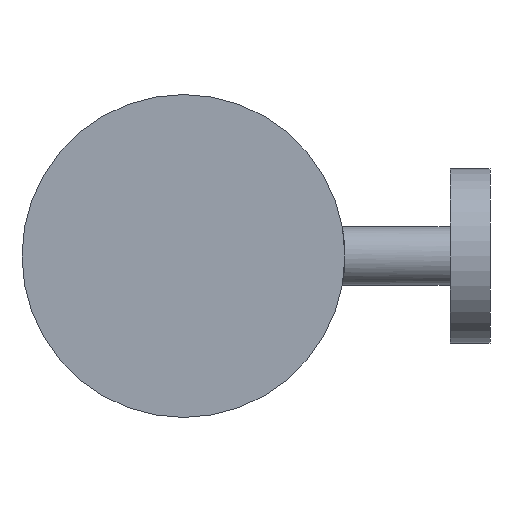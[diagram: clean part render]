
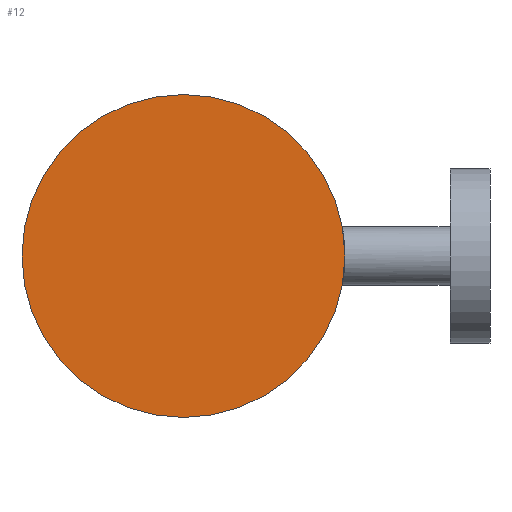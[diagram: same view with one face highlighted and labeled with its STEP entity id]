
A CAD part, front view. The second image highlights one B-rep face of the part: STEP entity #12.
In plain terms, the highlighted planar face has unit normal (0, -1, 0).
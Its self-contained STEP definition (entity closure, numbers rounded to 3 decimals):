
#12 = ADVANCED_FACE ( 'NONE', ( #183 ), #754, .T. ) ;
#19 = DIRECTION ( 'NONE',  ( 0., 0., -1. ) ) ;
#28 = DIRECTION ( 'NONE',  ( 0., 0., -1. ) ) ;
#89 = ORIENTED_EDGE ( 'NONE', *, *, #825, .T. ) ;
#121 = DIRECTION ( 'NONE',  ( 0., 0., -1. ) ) ;
#126 = CARTESIAN_POINT ( 'NONE',  ( 0., -3., -44.5 ) ) ;
#137 = VERTEX_POINT ( 'NONE', #427 ) ;
#183 = FACE_OUTER_BOUND ( 'NONE', #378, .T. ) ;
#225 = AXIS2_PLACEMENT_3D ( 'NONE', #470, #741, #121 ) ;
#269 = CIRCLE ( 'NONE', #783, 44.5 ) ;
#374 = CARTESIAN_POINT ( 'NONE',  ( 0., -3., 0. ) ) ;
#378 = EDGE_LOOP ( 'NONE', ( #89, #735 ) ) ;
#427 = CARTESIAN_POINT ( 'NONE',  ( 0., -3., 44.5 ) ) ;
#470 = CARTESIAN_POINT ( 'NONE',  ( 0., -3., 0. ) ) ;
#511 = CARTESIAN_POINT ( 'NONE',  ( 0., -3., 0. ) ) ;
#539 = CIRCLE ( 'NONE', #682, 44.5 ) ;
#634 = EDGE_CURVE ( 'NONE', #910, #137, #539, .T. ) ;
#665 = DIRECTION ( 'NONE',  ( 0., -1., 0. ) ) ;
#682 = AXIS2_PLACEMENT_3D ( 'NONE', #511, #706, #19 ) ;
#706 = DIRECTION ( 'NONE',  ( 0., -1., 0. ) ) ;
#735 = ORIENTED_EDGE ( 'NONE', *, *, #634, .T. ) ;
#741 = DIRECTION ( 'NONE',  ( 0., -1., 0. ) ) ;
#754 = PLANE ( 'NONE',  #225 ) ;
#783 = AXIS2_PLACEMENT_3D ( 'NONE', #374, #665, #28 ) ;
#825 = EDGE_CURVE ( 'NONE', #137, #910, #269, .T. ) ;
#910 = VERTEX_POINT ( 'NONE', #126 ) ;
